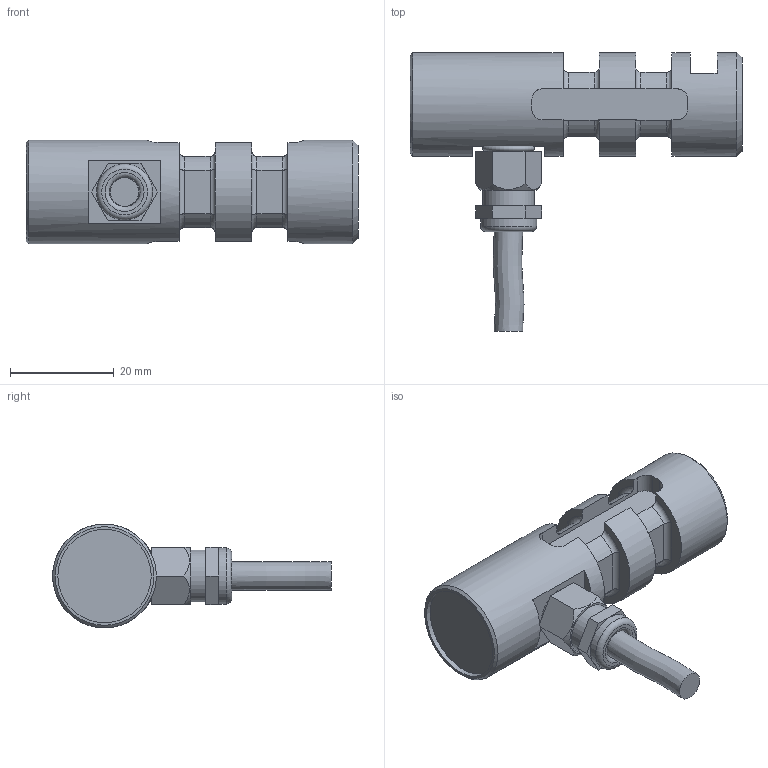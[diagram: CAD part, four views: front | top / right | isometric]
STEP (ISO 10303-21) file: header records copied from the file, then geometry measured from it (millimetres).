
FILE_DESCRIPTION(/* description */ ('Alibre Inc.'),/* implementation_level */ '2;1');
FILE_NAME(/* name */ 'export-F98F8214-8BE4-402E-88BE-1636EA7836FC',/* time_stamp */ '2020-01-24T08:47:07+01:00',/* author */ (''),/* organization */ (''),/* preprocessor_version */ 'ST-DEVELOPER v17',/* originating_system */ 'Alibre',/* authorisation */ '');
FILE_SCHEMA (('CONFIG_CONTROL_DESIGN'));
Length unit declared in the file: centimetre
Bounding box: 64 x 53.73 x 20 mm (x, y, z)
Volume: 17825.3 mm3; surface area: 7125 mm2
Topology: 4 solids, 4 shells, 111 faces, 284 edges, 187 vertices
Faces by surface type: plane 52, cylinder 34, torus 19, cone 5, bspline 1
Full cylindrical faces by diameter (mm): 5.5 x1, 7 x1, 8 x1, 10 x1, 10.8 x1, 18 x1, 20 x2
Entity records: 4237 total; most frequent: CARTESIAN_POINT 1348, ORIENTED_EDGE 528, DIRECTION 353, EDGE_CURVE 264, VERTEX_POINT 184, AXIS2_PLACEMENT_3D 140, FACE_BOUND 136, EDGE_LOOP 135
